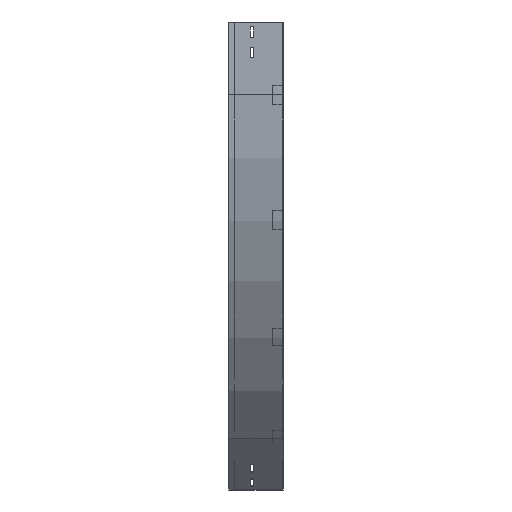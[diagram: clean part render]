
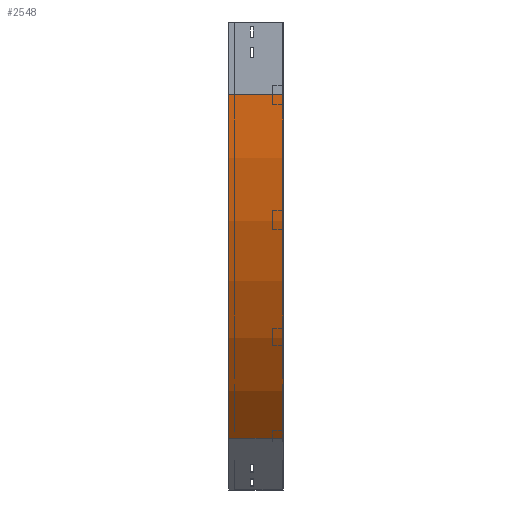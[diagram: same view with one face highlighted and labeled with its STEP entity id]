
A CAD part, left-side view. The second image highlights one B-rep face of the part: STEP entity #2548.
In plain terms, the highlighted cylindrical face has radius 1000 mm (diameter 2000 mm), a partial arc.
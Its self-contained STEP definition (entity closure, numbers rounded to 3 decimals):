
#5 = ORIENTED_EDGE ( 'NONE', *, *, #437, .F. ) ;
#224 = AXIS2_PLACEMENT_3D ( 'NONE', #2540, #3125, #2308 ) ;
#272 = CARTESIAN_POINT ( 'NONE',  ( 0., 112.5, -150. ) ) ;
#437 = EDGE_CURVE ( 'NONE', #1743, #1844, #2625, .T. ) ;
#504 = LINE ( 'NONE', #2522, #3024 ) ;
#1119 = DIRECTION ( 'NONE',  ( 0., -1., 0. ) ) ;
#1328 = VERTEX_POINT ( 'NONE', #3291 ) ;
#1483 = DIRECTION ( 'NONE',  ( 0., -1., 0. ) ) ;
#1608 = VECTOR ( 'NONE', #1119, 1000. ) ;
#1693 = DIRECTION ( 'NONE',  ( 0., -1., 0. ) ) ;
#1742 = FACE_OUTER_BOUND ( 'NONE', #2420, .T. ) ;
#1743 = VERTEX_POINT ( 'NONE', #3578 ) ;
#1844 = VERTEX_POINT ( 'NONE', #2799 ) ;
#1951 = CARTESIAN_POINT ( 'NONE',  ( 1000., 0., -150. ) ) ;
#2045 = ORIENTED_EDGE ( 'NONE', *, *, #2304, .T. ) ;
#2090 = DIRECTION ( 'NONE',  ( 0., 0., -1. ) ) ;
#2231 = CARTESIAN_POINT ( 'NONE',  ( 292.893, 0., -857.107 ) ) ;
#2304 = EDGE_CURVE ( 'NONE', #3087, #1328, #3090, .T. ) ;
#2308 = DIRECTION ( 'NONE',  ( -1., 0., 0. ) ) ;
#2340 = EDGE_CURVE ( 'NONE', #3087, #1743, #504, .T. ) ;
#2382 = CYLINDRICAL_SURFACE ( 'NONE', #3717, 1000. ) ;
#2390 = EDGE_CURVE ( 'NONE', #1328, #1844, #2557, .T. ) ;
#2420 = EDGE_LOOP ( 'NONE', ( #5, #3532, #2045, #3234 ) ) ;
#2522 = CARTESIAN_POINT ( 'NONE',  ( 0., 0., -150. ) ) ;
#2540 = CARTESIAN_POINT ( 'NONE',  ( 1000., 112.5, -150. ) ) ;
#2548 = ADVANCED_FACE ( 'NONE', ( #1742 ), #2382, .T. ) ;
#2557 = LINE ( 'NONE', #2231, #1608 ) ;
#2625 = CIRCLE ( 'NONE', #3124, 1000. ) ;
#2799 = CARTESIAN_POINT ( 'NONE',  ( 292.893, 0., -857.107 ) ) ;
#3024 = VECTOR ( 'NONE', #3493, 1000. ) ;
#3087 = VERTEX_POINT ( 'NONE', #272 ) ;
#3090 = CIRCLE ( 'NONE', #224, 1000. ) ;
#3124 = AXIS2_PLACEMENT_3D ( 'NONE', #1951, #1693, #3449 ) ;
#3125 = DIRECTION ( 'NONE',  ( 0., -1., 0. ) ) ;
#3234 = ORIENTED_EDGE ( 'NONE', *, *, #2390, .T. ) ;
#3291 = CARTESIAN_POINT ( 'NONE',  ( 292.893, 112.5, -857.107 ) ) ;
#3449 = DIRECTION ( 'NONE',  ( -1., 0., 0. ) ) ;
#3493 = DIRECTION ( 'NONE',  ( 0., -1., 0. ) ) ;
#3532 = ORIENTED_EDGE ( 'NONE', *, *, #2340, .F. ) ;
#3568 = CARTESIAN_POINT ( 'NONE',  ( 1000., 0., -150. ) ) ;
#3578 = CARTESIAN_POINT ( 'NONE',  ( 0., 0., -150. ) ) ;
#3717 = AXIS2_PLACEMENT_3D ( 'NONE', #3568, #1483, #2090 ) ;
